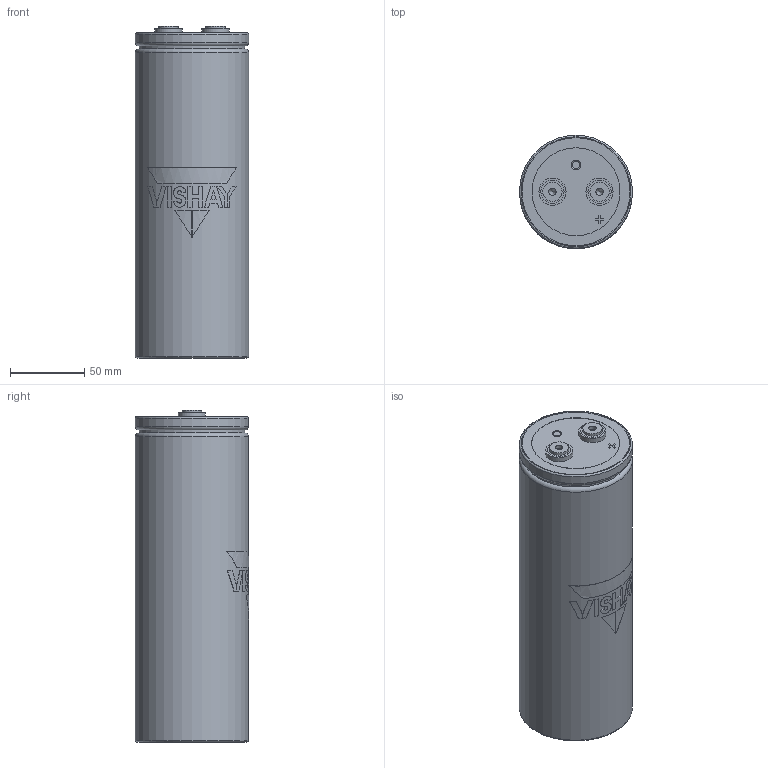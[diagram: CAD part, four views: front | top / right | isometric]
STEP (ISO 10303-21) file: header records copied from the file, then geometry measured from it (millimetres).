
FILE_DESCRIPTION(('FreeCAD Model'),'2;1');
FILE_NAME('C:/Users/tvandesteeg/Documents/Documents/FreeCAD/Stepfiles/ST capacitors/ST_LP_M6_76x220.step','2020-07-02T18:04:22',('Author'),(''), 'Open CASCADE STEP processor 7.3','FreeCAD','Unknown');
FILE_SCHEMA(('AUTOMOTIVE_DESIGN { 1 0 10303 214 1 1 1 1 }'));
Length unit declared in the file: millimetre
Products named in the file (7): VentBody; TerminalBody_(Mirror_#2); TerminalBody; Disc; LogoPrint; CanBody; BottomBody
Bounding box: 76.4 x 76.5 x 224.2 mm (x, y, z)
Volume: 1003298.3 mm3; surface area: 88572.8 mm2
Topology: 17 solids, 17 shells, 149 faces, 313 edges, 206 vertices
Faces by surface type: plane 93, cylinder 48, torus 5, cone 3
Full cylindrical faces by diameter (mm): 5 x4, 13 x2, 15.65 x6, 18.3 x2, 59.422 x3, 71.4 x1, 72 x2, 76.4 x2
Entity records: 10653 total; most frequent: CARTESIAN_POINT 3357, DIRECTION 1204, ORIENTED_EDGE 622, PCURVE 622, DEFINITIONAL_REPRESENTATION 622, LINE 532, VECTOR 532, EDGE_CURVE 311
